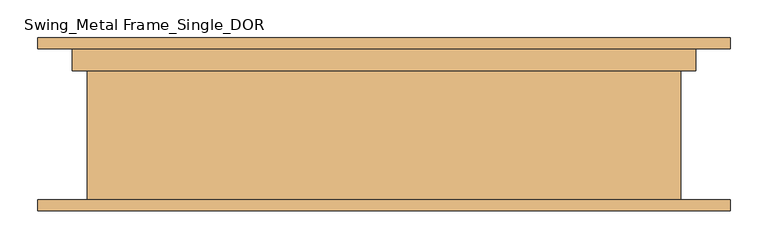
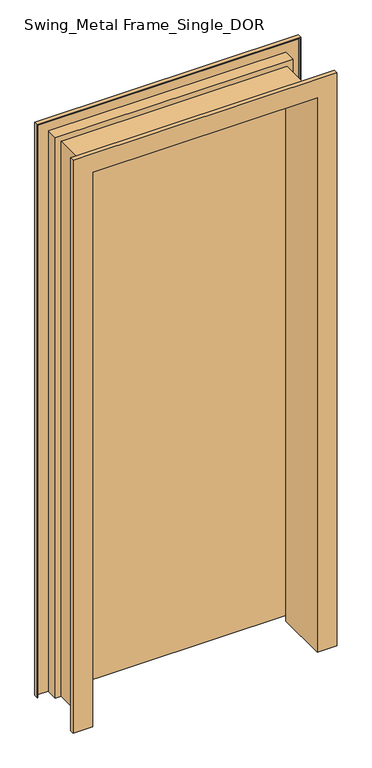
"""IFC4 building model written with IfcOpenShell, lengths in millimetres: door geometry, Swing_Metal Frame_Single_DOR : 2040h x 820 (2110x920 STUD)."""

from ifc_helpers import new_model, si_unit, frame, origin, place, context, project, spatial, polyline, outline, extrude, faceted_brep, source, transform, mapped, element, save


def swing_metal_frame_single_dor_32c74b63(model_context):
    return source(origin(), model_context, "Body", "SolidModel", [
        extrude(outline(polyline([(410.0, 115.0), (410.0, 75.0), (-410.0, 75.0), (-410.0, 115.0), (410.0, 115.0)])), frame((0.0, 0.0, 20.0), z_axis=(0.0, 0.0, 1.0), x_axis=(1.0, 0.0, 0.0)), (0.0, 0.0, 1.0), 2040.0),
        faceted_brep([(-460.0, -115.0, 0.0), (-460.0, -100.0, 0.0), (-458.0, -100.0, 0.0), (-458.0, -113.0, 0.0), (-394.0, -113.0, 0.0), (-394.0, 71.0, 0.0), (-414.0, 71.0, 0.0), (-414.0, 113.0, 0.0), (-458.0, 113.0, 0.0), (-458.0, 100.0, 0.0), (-460.0, 100.0, 0.0), (-460.0, 115.0, 0.0), (-412.0, 115.0, 0.0), (-412.0, 73.0, 0.0), (-392.0, 73.0, 0.0), (-392.0, -115.0, 0.0), (-460.0, -115.0, 2110.0), (-460.0, -100.0, 2110.0), (460.0, -100.0, 2110.0), (460.0, -100.0, 0.0), (458.0, -100.0, 0.0), (458.0, -100.0, 2108.0), (-458.0, -100.0, 2108.0), (-458.0, -113.0, 2108.0), (458.0, -113.0, 2108.0), (458.0, -113.0, 0.0), (394.0, -113.0, 0.0), (394.0, -113.0, 2044.0), (-394.0, -113.0, 2044.0), (-394.0, 71.0, 2044.0), (394.0, 71.0, 2044.0), (394.0, 71.0, 0.0), (414.0, 71.0, 0.0), (414.0, 71.0, 2064.0), (-414.0, 71.0, 2064.0), (-414.0, 113.0, 2064.0), (414.0, 113.0, 2064.0), (414.0, 113.0, 0.0), (458.0, 113.0, 0.0), (458.0, 113.0, 2108.0), (-458.0, 113.0, 2108.0), (-458.0, 100.0, 2108.0), (458.0, 100.0, 2108.0), (458.0, 100.0, 0.0), (460.0, 100.0, 0.0), (460.0, 100.0, 2110.0), (-460.0, 100.0, 2110.0), (-460.0, 115.0, 2110.0), (460.0, 115.0, 2110.0), (460.0, 115.0, 0.0), (412.0, 115.0, 0.0), (412.0, 115.0, 2062.0), (-412.0, 115.0, 2062.0), (-412.0, 73.0, 2062.0), (412.0, 73.0, 2062.0), (412.0, 73.0, 0.0), (392.0, 73.0, 0.0), (392.0, 73.0, 2042.0), (-392.0, 73.0, 2042.0), (-392.0, -115.0, 2042.0), (392.0, -115.0, 2042.0), (392.0, -115.0, 0.0), (460.0, -115.0, 0.0), (460.0, -115.0, 2110.0)], [[[0, 1, 2, 3, 4, 5, 6, 7, 8, 9, 10, 11, 12, 13, 14, 15]], [[1, 0, 16, 17]], [[2, 1, 17, 18, 19, 20, 21, 22]], [[3, 2, 22, 23]], [[4, 3, 23, 24, 25, 26, 27, 28]], [[5, 4, 28, 29]], [[6, 5, 29, 30, 31, 32, 33, 34]], [[7, 6, 34, 35]], [[8, 7, 35, 36, 37, 38, 39, 40]], [[9, 8, 40, 41]], [[10, 9, 41, 42, 43, 44, 45, 46]], [[11, 10, 46, 47]], [[12, 11, 47, 48, 49, 50, 51, 52]], [[13, 12, 52, 53]], [[14, 13, 53, 54, 55, 56, 57, 58]], [[15, 14, 58, 59]], [[0, 15, 59, 60, 61, 62, 63, 16]], [[18, 63, 62, 19]], [[62, 61, 56, 55, 50, 49, 44, 43, 38, 37, 32, 31, 26, 25, 20, 19]], [[24, 21, 20, 25]], [[30, 27, 26, 31]], [[36, 33, 32, 37]], [[42, 39, 38, 43]], [[48, 45, 44, 49]], [[54, 51, 50, 55]], [[60, 57, 56, 61]], [[17, 16, 63, 18]], [[23, 22, 21, 24]], [[29, 28, 27, 30]], [[35, 34, 33, 36]], [[41, 40, 39, 42]], [[47, 46, 45, 48]], [[53, 52, 51, 54]], [[59, 58, 57, 60]]]),
    ])


if __name__ == "__main__":
    model = new_model("IFC4")
    model_context = context("Model", 3, world=origin())
    ifc_project = project(units=[si_unit("LENGTHUNIT", "METRE", prefix="MILLI")], contexts=[model_context])
    site = spatial("IfcSite", under=ifc_project)
    building = spatial("IfcBuilding", under=site)
    placement = place(None, origin())
    swing_metal_frame_single_dor_shape = swing_metal_frame_single_dor_32c74b63(model_context)
    element("IfcDoor", 1, ObjectType="Swing_Metal Frame_Single_DOR : 2040h x 820 (2110x920 STUD)", at=placement, inside=building, context=model_context, shape_type="MappedRepresentation", body=[
        mapped(swing_metal_frame_single_dor_shape, transform((0.0, 0.0, 0.0), x_axis=(1.0, 0.0, 0.0), y_axis=(0.0, 1.0, 0.0), z_axis=(0.0, 0.0, 1.0))),
    ])
    save(model, "model.ifc")
